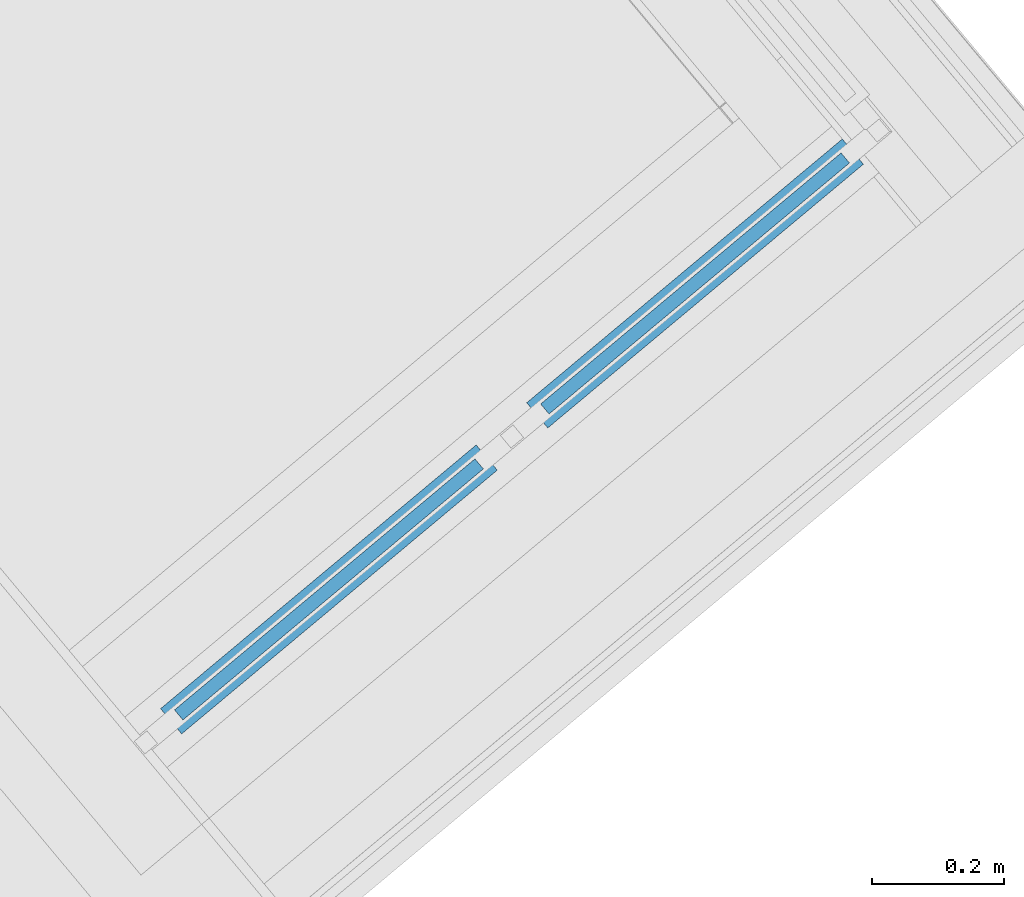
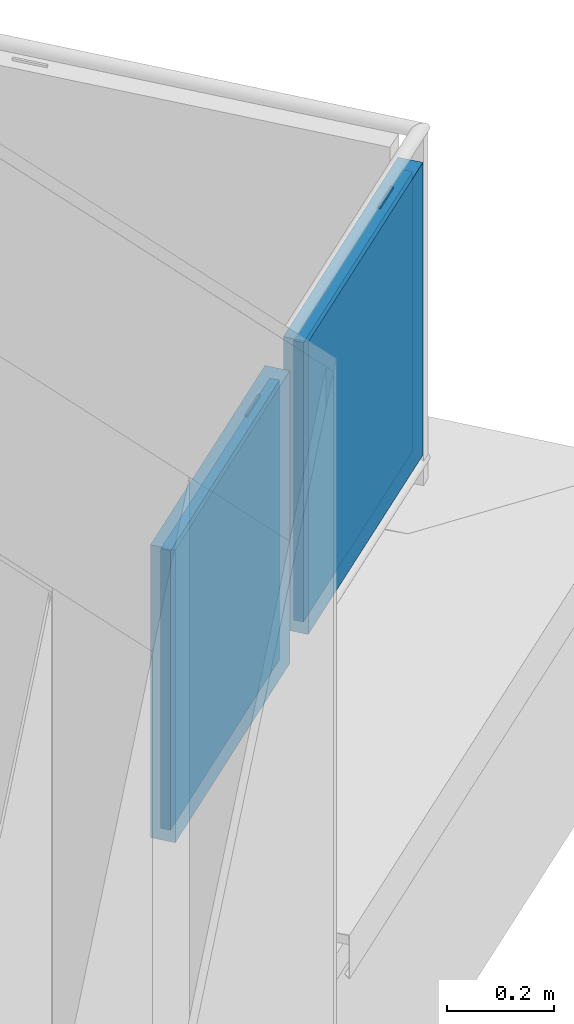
# One storey, part 40 of 50: 4 building element parts, 1 element without a shape of its own.
"""IFC4 building model written with IfcOpenShell, lengths in metres."""

from ifc_helpers import new_model, entity, si_unit, converted_unit, derived_unit, direction, frame, origin_with_axes, place, context, subcontext, project, spatial, polygons, material, type_object, element, aggregate, save


model = new_model("IFC4")

# Units and contexts
model_context = context("Model", 3, precision=1e-05, world=origin_with_axes(), true_north=direction((0.0, 1.0)))
body_context = subcontext(model_context, "Body", "Model", "MODEL_VIEW")
ifc_project = project(units=[si_unit("LENGTHUNIT", "METRE"), si_unit("AREAUNIT", "SQUARE_METRE"), si_unit("VOLUMEUNIT", "CUBIC_METRE"), converted_unit("PLANEANGLEUNIT", "DEGREE", entity("IfcPlaneAngleMeasure", 0.0174532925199), si_unit("PLANEANGLEUNIT", "RADIAN"), dimensions=[0, 0, 0, 0, 0, 0, 0]), converted_unit("TIMEUNIT", "Year", entity("IfcTimeMeasure", 31556926.0), si_unit("TIMEUNIT", "SECOND"), dimensions=[0, 0, 1, 0, 0, 0, 0]), si_unit("MASSUNIT", "GRAM", prefix="KILO"), si_unit("THERMODYNAMICTEMPERATUREUNIT", "DEGREE_CELSIUS"), si_unit("LUMINOUSINTENSITYUNIT", "LUMEN"), si_unit("ENERGYUNIT", "JOULE", prefix="MEGA"), derived_unit("THERMALCONDUCTANCEUNIT", [(si_unit("POWERUNIT", "WATT"), 1), (si_unit("LENGTHUNIT", "METRE"), -1), (si_unit("THERMODYNAMICTEMPERATUREUNIT", "KELVIN"), -1)]), derived_unit("SPECIFICHEATCAPACITYUNIT", [(si_unit("ENERGYUNIT", "JOULE"), 1), (si_unit("MASSUNIT", "GRAM", prefix="KILO"), -1), (si_unit("THERMODYNAMICTEMPERATUREUNIT", "KELVIN"), -1)]), derived_unit("MASSDENSITYUNIT", [(si_unit("MASSUNIT", "GRAM", prefix="KILO"), 1), (si_unit("VOLUMEUNIT", "CUBIC_METRE"), -1)])], contexts=[model_context])

# Site, building, storey
site_placement = place(None, frame((-0.00153261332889, -0.00661245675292, 0.0), z_axis=(0.0, 0.0, 1.0), x_axis=(1.0, 0.0, 0.0)))
site = spatial("IfcSite", under=ifc_project, at=site_placement, Name="Site", CompositionType="ELEMENT")
building_placement = place(site_placement, origin_with_axes())
building = spatial("IfcBuilding", under=site, at=building_placement, Name="Building", CompositionType="ELEMENT")
storey_placement = place(building_placement, frame((0.0, 0.0, 2.74), z_axis=(0.0, 0.0, 1.0), x_axis=(1.0, 0.0, 0.0)))
storey = spatial("IfcBuildingStorey", under=building, at=storey_placement, Name="OG1", CompositionType="ELEMENT", Elevation=2.74)

# Railing, building element parts
railing_type = type_object("IfcRailingType", Name="Geländerart", PredefinedType="NOTDEFINED")
railing_placement = place(storey_placement, frame((13.1317464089, 20.5971564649, 0.38), z_axis=(0.0, 0.0, 1.0), x_axis=(1.0, 0.0, 0.0)))
railing = element("IfcRailing", 1, at=railing_placement, inside=storey, type_object=railing_type, Name="Geländer - 001", PredefinedType="NOTDEFINED")
ifc_material_1 = material(Name="Profilit")
building_element_part_1_placement = place(railing_placement, origin_with_axes())
building_element_part_1 = element("IfcBuildingElementPart", 2, at=building_element_part_1_placement, material=ifc_material_1, Name="Profilit", PredefinedType="NOTDEFINED", context=body_context, shape_type="Tessellation", body=[
    polygons([(0.532155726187, 0.392542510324, 0.135), (0.0755271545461, 0.0109840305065, 0.135), (0.0755271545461, 0.0109840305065, 0.775), (0.532155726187, 0.392542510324, 0.775), (0.0883513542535, -0.00436327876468, 0.135), (0.544979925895, 0.377195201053, 0.135), (0.0883513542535, -0.00436327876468, 0.775), (0.544979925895, 0.377195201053, 0.775)], [[[1, 2, 3, 4]], [[5, 2, 1, 6]], [[7, 3, 2, 5]], [[4, 3, 7, 8]], [[1, 4, 8, 6]], [[7, 5, 6, 8]]], closed=True),
])
ifc_material_2 = material(Name="Aluminium")
building_element_part_2_placement = place(railing_placement, origin_with_axes())
building_element_part_2 = element("IfcBuildingElementPart", 3, at=building_element_part_2_placement, material=ifc_material_2, Name="Aluminium", PredefinedType="NOTDEFINED", context=body_context, shape_type="Tessellation", body=[
    polygons([(0.145562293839, 0.0597316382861, 0.12), (0.199277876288, 0.104616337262, 0.12), (0.199277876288, 0.104616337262, 0.095), (0.145562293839, 0.0597316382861, 0.095), (0.148768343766, 0.0558948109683, 0.12), (0.202483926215, 0.100779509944, 0.12), (0.202483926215, 0.100779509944, 0.095), (0.148768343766, 0.0558948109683, 0.095)], [[[1, 2, 3, 4]], [[5, 6, 2, 1]], [[2, 6, 7, 3]], [[4, 3, 7, 8]], [[1, 4, 8, 5]], [[8, 7, 6, 5]]], closed=True),
    polygons([(0.471738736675, 0.332284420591, 0.79), (0.418023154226, 0.287399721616, 0.79), (0.418023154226, 0.287399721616, 0.795), (0.471738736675, 0.332284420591, 0.795), (0.474944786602, 0.328447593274, 0.79), (0.421229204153, 0.283562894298, 0.79), (0.421229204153, 0.283562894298, 0.795), (0.474944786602, 0.328447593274, 0.795)], [[[1, 2, 3, 4]], [[5, 6, 2, 1]], [[2, 6, 7, 3]], [[4, 3, 7, 8]], [[1, 4, 8, 5]], [[8, 7, 6, 5]]], closed=True),
    polygons([(0.0864590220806, -0.0254919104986, 0.12), (0.0543985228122, 0.0128763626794, 0.12), (0.53404805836, 0.413671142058, 0.12), (0.566108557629, 0.37530286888, 0.12), (0.101806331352, -0.0126677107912, 0.14), (0.0921881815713, -0.00115722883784, 0.14), (0.0883513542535, -0.00436327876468, 0.135), (0.0755271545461, 0.0109840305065, 0.135), (0.0793639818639, 0.0141900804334, 0.14), (0.0697458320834, 0.0257005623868, 0.14), (0.518700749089, 0.400846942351, 0.14), (0.518700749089, 0.400846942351, 0.77), (0.0697458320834, 0.0257005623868, 0.77), (0.0697458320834, 0.0257005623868, 0.14), (0.0543985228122, 0.0128763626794, 0.12), (0.0543985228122, 0.0128763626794, 0.79), (0.53404805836, 0.413671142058, 0.79), (0.566108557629, 0.37530286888, 0.79), (0.0864590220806, -0.0254919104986, 0.79), (0.0864590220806, -0.0254919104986, 0.12), (0.101806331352, -0.0126677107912, 0.14), (0.101806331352, -0.0126677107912, 0.77), (0.550761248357, 0.362478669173, 0.77), (0.550761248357, 0.362478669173, 0.14), (0.541143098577, 0.373989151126, 0.14), (0.541143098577, 0.373989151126, 0.77), (0.0921881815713, -0.00115722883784, 0.77), (0.0921881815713, -0.00115722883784, 0.14), (0.0883513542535, -0.00436327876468, 0.135), (0.0883513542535, -0.00436327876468, 0.775), (0.544979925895, 0.377195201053, 0.775), (0.544979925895, 0.377195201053, 0.135), (0.532155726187, 0.392542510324, 0.135), (0.532155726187, 0.392542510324, 0.775), (0.0755271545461, 0.0109840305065, 0.775), (0.0755271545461, 0.0109840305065, 0.135), (0.0793639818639, 0.0141900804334, 0.14), (0.0793639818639, 0.0141900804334, 0.77), (0.52831889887, 0.389336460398, 0.77), (0.52831889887, 0.389336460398, 0.14)], [[[1, 2, 3, 4]], [[1, 5, 6, 7, 8, 9, 10, 2]], [[2, 10, 11, 12, 13, 14, 15, 16, 17, 3]], [[4, 3, 17, 18]], [[5, 1, 4, 18, 19, 20, 21, 22, 23, 24]], [[6, 5, 24, 25]], [[7, 6, 25, 26, 27, 28, 29, 30, 31, 32]], [[8, 7, 32, 33]], [[9, 8, 33, 34, 35, 36, 37, 38, 39, 40]], [[10, 9, 40, 11]], [[11, 40, 39, 12]], [[12, 39, 38, 13]], [[13, 38, 37, 14]], [[20, 15, 14, 37, 36, 29, 28, 21]], [[19, 16, 15, 20]], [[18, 17, 16, 19]], [[27, 22, 21, 28]], [[26, 23, 22, 27]], [[25, 24, 23, 26]], [[35, 30, 29, 36]], [[34, 31, 30, 35]], [[33, 32, 31, 34]]], closed=True),
])
building_element_part_3_placement = place(railing_placement, origin_with_axes())
building_element_part_3 = element("IfcBuildingElementPart", 4, at=building_element_part_3_placement, material=ifc_material_1, Name="Profilit", PredefinedType="NOTDEFINED", context=body_context, shape_type="Tessellation", body=[
    polygons([(1.08854180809, 0.85745828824, 0.135), (0.63191323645, 0.475899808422, 0.135), (0.63191323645, 0.475899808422, 0.775), (1.08854180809, 0.85745828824, 0.775), (0.644737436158, 0.460552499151, 0.135), (1.1013660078, 0.842110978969, 0.135), (0.644737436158, 0.460552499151, 0.775), (1.1013660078, 0.842110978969, 0.775)], [[[1, 2, 3, 4]], [[5, 2, 1, 6]], [[7, 3, 2, 5]], [[4, 3, 7, 8]], [[1, 4, 8, 6]], [[7, 5, 6, 8]]], closed=True),
])
building_element_part_4_placement = place(railing_placement, origin_with_axes())
building_element_part_4 = element("IfcBuildingElementPart", 5, at=building_element_part_4_placement, material=ifc_material_2, Name="Aluminium", PredefinedType="NOTDEFINED", context=body_context, shape_type="Tessellation", body=[
    polygons([(0.701948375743, 0.524647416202, 0.12), (0.755663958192, 0.569532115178, 0.12), (0.755663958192, 0.569532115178, 0.095), (0.701948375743, 0.524647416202, 0.095), (0.70515442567, 0.520810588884, 0.12), (0.758870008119, 0.56569528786, 0.12), (0.758870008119, 0.56569528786, 0.095), (0.70515442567, 0.520810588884, 0.095)], [[[1, 2, 3, 4]], [[5, 6, 2, 1]], [[2, 6, 7, 3]], [[4, 3, 7, 8]], [[1, 4, 8, 5]], [[8, 7, 6, 5]]], closed=True),
    polygons([(1.02812481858, 0.797200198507, 0.79), (0.97440923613, 0.752315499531, 0.79), (0.97440923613, 0.752315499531, 0.795), (1.02812481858, 0.797200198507, 0.795), (1.03133086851, 0.793363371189, 0.79), (0.977615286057, 0.748478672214, 0.79), (0.977615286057, 0.748478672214, 0.795), (1.03133086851, 0.793363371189, 0.795)], [[[1, 2, 3, 4]], [[5, 6, 2, 1]], [[2, 6, 7, 3]], [[4, 3, 7, 8]], [[1, 4, 8, 5]], [[8, 7, 6, 5]]], closed=True),
    polygons([(0.642845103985, 0.439423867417, 0.12), (0.610784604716, 0.477792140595, 0.12), (1.09043414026, 0.878586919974, 0.12), (1.12249463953, 0.840218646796, 0.12), (0.658192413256, 0.452248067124, 0.14), (0.648574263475, 0.463758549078, 0.14), (0.644737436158, 0.460552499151, 0.135), (0.63191323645, 0.475899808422, 0.135), (0.635750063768, 0.479105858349, 0.14), (0.626131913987, 0.490616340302, 0.14), (1.07508683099, 0.865762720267, 0.14), (1.07508683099, 0.865762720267, 0.77), (0.626131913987, 0.490616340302, 0.77), (0.626131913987, 0.490616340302, 0.14), (0.610784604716, 0.477792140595, 0.12), (0.610784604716, 0.477792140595, 0.79), (1.09043414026, 0.878586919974, 0.79), (1.12249463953, 0.840218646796, 0.79), (0.642845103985, 0.439423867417, 0.79), (0.642845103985, 0.439423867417, 0.12), (0.658192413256, 0.452248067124, 0.14), (0.658192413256, 0.452248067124, 0.77), (1.10714733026, 0.827394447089, 0.77), (1.10714733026, 0.827394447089, 0.14), (1.09752918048, 0.838904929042, 0.14), (1.09752918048, 0.838904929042, 0.77), (0.648574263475, 0.463758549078, 0.77), (0.648574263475, 0.463758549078, 0.14), (0.644737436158, 0.460552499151, 0.135), (0.644737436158, 0.460552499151, 0.775), (1.1013660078, 0.842110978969, 0.775), (1.1013660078, 0.842110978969, 0.135), (1.08854180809, 0.85745828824, 0.135), (1.08854180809, 0.85745828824, 0.775), (0.63191323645, 0.475899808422, 0.775), (0.63191323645, 0.475899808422, 0.135), (0.635750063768, 0.479105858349, 0.14), (0.635750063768, 0.479105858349, 0.77), (1.08470498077, 0.854252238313, 0.77), (1.08470498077, 0.854252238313, 0.14)], [[[1, 2, 3, 4]], [[1, 5, 6, 7, 8, 9, 10, 2]], [[2, 10, 11, 12, 13, 14, 15, 16, 17, 3]], [[4, 3, 17, 18]], [[5, 1, 4, 18, 19, 20, 21, 22, 23, 24]], [[6, 5, 24, 25]], [[7, 6, 25, 26, 27, 28, 29, 30, 31, 32]], [[8, 7, 32, 33]], [[9, 8, 33, 34, 35, 36, 37, 38, 39, 40]], [[10, 9, 40, 11]], [[11, 40, 39, 12]], [[12, 39, 38, 13]], [[13, 38, 37, 14]], [[20, 15, 14, 37, 36, 29, 28, 21]], [[19, 16, 15, 20]], [[18, 17, 16, 19]], [[27, 22, 21, 28]], [[26, 23, 22, 27]], [[25, 24, 23, 26]], [[35, 30, 29, 36]], [[34, 31, 30, 35]], [[33, 32, 31, 34]]], closed=True),
])
aggregate(railing, [building_element_part_1, building_element_part_2, building_element_part_3, building_element_part_4])

save(model, "model.ifc")
